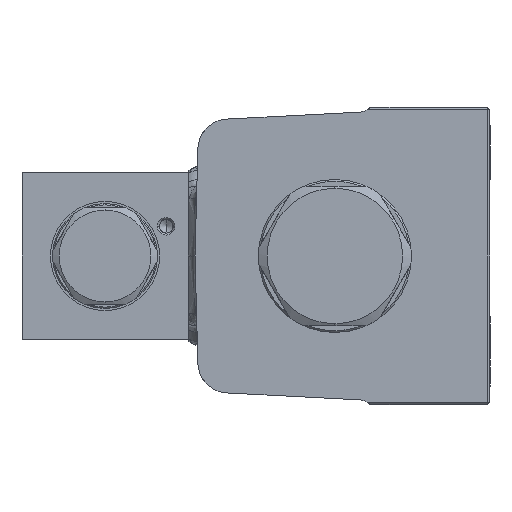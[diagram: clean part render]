
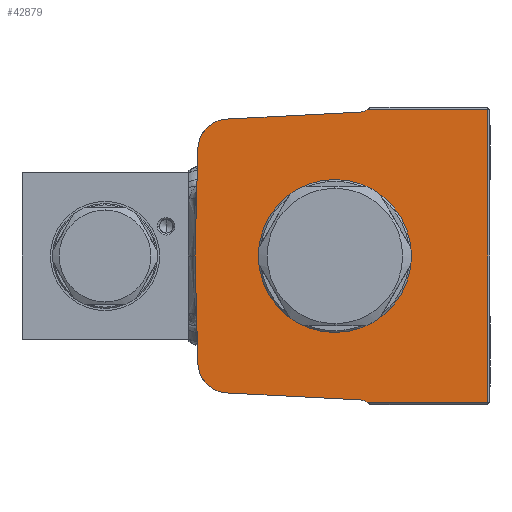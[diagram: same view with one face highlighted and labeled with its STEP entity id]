
A CAD part, left-side view. The second image highlights one B-rep face of the part: STEP entity #42879.
In plain terms, the highlighted planar face has unit normal (-1, 0, 0).
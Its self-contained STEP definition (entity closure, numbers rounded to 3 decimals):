
#260 = DIRECTION ( 'NONE',  ( 0., 0., 1. ) ) ;
#1206 = VECTOR ( 'NONE', #46653, 1000. ) ;
#1707 = EDGE_CURVE ( 'NONE', #11721, #22709, #18658, .T. ) ;
#2564 = DIRECTION ( 'NONE',  ( -1., 0., 0. ) ) ;
#2613 = DIRECTION ( 'NONE',  ( 1., 0., 0. ) ) ;
#5026 = CARTESIAN_POINT ( 'NONE',  ( -46.6, 0., 0. ) ) ;
#5421 = VERTEX_POINT ( 'NONE', #62790 ) ;
#5557 = EDGE_CURVE ( 'NONE', #11721, #5421, #65802, .T. ) ;
#5741 = CARTESIAN_POINT ( 'NONE',  ( -46.6, 16., 0. ) ) ;
#6511 = CARTESIAN_POINT ( 'NONE',  ( -46.6, -7.444, 33.5 ) ) ;
#7322 = DIRECTION ( 'NONE',  ( 1., 0., 0. ) ) ;
#7546 = ORIENTED_EDGE ( 'NONE', *, *, #20923, .F. ) ;
#8105 = CARTESIAN_POINT ( 'NONE',  ( -46.6, 24.726, 31.337 ) ) ;
#8913 = AXIS2_PLACEMENT_3D ( 'NONE', #51424, #17175, #57134 ) ;
#9104 = CARTESIAN_POINT ( 'NONE',  ( -46.6, 1.706, -32.544 ) ) ;
#9898 = VECTOR ( 'NONE', #25475, 1000. ) ;
#10683 = DIRECTION ( 'NONE',  ( 0., -1., 0. ) ) ;
#11391 = CARTESIAN_POINT ( 'NONE',  ( -46.6, -35.5, -33.5 ) ) ;
#11685 = LINE ( 'NONE', #65243, #9898 ) ;
#11718 = EDGE_CURVE ( 'NONE', #36906, #23323, #73750, .T. ) ;
#11721 = VERTEX_POINT ( 'NONE', #51425 ) ;
#13261 = VERTEX_POINT ( 'NONE', #5741 ) ;
#13986 = CIRCLE ( 'NONE', #8913, 16. ) ;
#14759 = VECTOR ( 'NONE', #45734, 1000. ) ;
#14881 = CARTESIAN_POINT ( 'NONE',  ( -46.6, -35., 33.5 ) ) ;
#15002 = ORIENTED_EDGE ( 'NONE', *, *, #15581, .T. ) ;
#15581 = EDGE_CURVE ( 'NONE', #22709, #36906, #25928, .T. ) ;
#15696 = ORIENTED_EDGE ( 'NONE', *, *, #17010, .T. ) ;
#15979 = CARTESIAN_POINT ( 'NONE',  ( -46.6, 31.978, -0.837 ) ) ;
#17010 = EDGE_CURVE ( 'NONE', #66025, #5421, #40603, .T. ) ;
#17020 = CARTESIAN_POINT ( 'NONE',  ( -46.6, -5.85, -32.94 ) ) ;
#17175 = DIRECTION ( 'NONE',  ( -1., 0., 0. ) ) ;
#18153 = LINE ( 'NONE', #23979, #1206 ) ;
#18649 = CARTESIAN_POINT ( 'NONE',  ( -46.6, -35., -33.5 ) ) ;
#18658 = LINE ( 'NONE', #9104, #62417 ) ;
#18970 = VECTOR ( 'NONE', #49831, 1000. ) ;
#19791 = DIRECTION ( 'NONE',  ( 1., 0., 0. ) ) ;
#20538 = AXIS2_PLACEMENT_3D ( 'NONE', #36875, #2613, #42613 ) ;
#20923 = EDGE_CURVE ( 'NONE', #66025, #66219, #24609, .T. ) ;
#21422 = VERTEX_POINT ( 'NONE', #6511 ) ;
#22304 = ORIENTED_EDGE ( 'NONE', *, *, #11718, .T. ) ;
#22329 = ORIENTED_EDGE ( 'NONE', *, *, #32407, .F. ) ;
#22633 = CARTESIAN_POINT ( 'NONE',  ( -46.6, -5.85, 32.94 ) ) ;
#22709 = VERTEX_POINT ( 'NONE', #17020 ) ;
#23118 = EDGE_CURVE ( 'NONE', #13261, #71311, #13986, .T. ) ;
#23289 = FACE_BOUND ( 'NONE', #69725, .T. ) ;
#23323 = VERTEX_POINT ( 'NONE', #18649 ) ;
#23635 = CARTESIAN_POINT ( 'NONE',  ( -46.6, 31.978, 0.837 ) ) ;
#23979 = CARTESIAN_POINT ( 'NONE',  ( -46.6, 1.706, 32.544 ) ) ;
#24175 = ORIENTED_EDGE ( 'NONE', *, *, #1707, .T. ) ;
#24609 = LINE ( 'NONE', #23635, #41516 ) ;
#24799 = EDGE_CURVE ( 'NONE', #69284, #66219, #54587, .T. ) ;
#25475 = DIRECTION ( 'NONE',  ( 0., 0., 1. ) ) ;
#25928 = CIRCLE ( 'NONE', #32222, 3. ) ;
#27159 = ORIENTED_EDGE ( 'NONE', *, *, #59084, .T. ) ;
#32222 = AXIS2_PLACEMENT_3D ( 'NONE', #53936, #19791, #59652 ) ;
#32227 = ORIENTED_EDGE ( 'NONE', *, *, #66736, .T. ) ;
#32407 = EDGE_CURVE ( 'NONE', #69284, #57540, #18153, .T. ) ;
#34480 = DIRECTION ( 'NONE',  ( -1., 0., 0. ) ) ;
#36821 = CARTESIAN_POINT ( 'NONE',  ( -46.6, -35.5, -34. ) ) ;
#36875 = CARTESIAN_POINT ( 'NONE',  ( -46.6, 24.36, -24.347 ) ) ;
#36906 = VERTEX_POINT ( 'NONE', #62241 ) ;
#39498 = ORIENTED_EDGE ( 'NONE', *, *, #71961, .F. ) ;
#39664 = CIRCLE ( 'NONE', #46864, 3. ) ;
#40235 = CIRCLE ( 'NONE', #73174, 16. ) ;
#40575 = DIRECTION ( 'NONE',  ( 0., -0.026, 1. ) ) ;
#40603 = LINE ( 'NONE', #15979, #70822 ) ;
#40934 = EDGE_LOOP ( 'NONE', ( #15002, #22304, #32227, #27159, #55495, #22329, #42171, #7546, #15696, #58013, #24175 ) ) ;
#41516 = VECTOR ( 'NONE', #40575, 1000. ) ;
#41595 = CARTESIAN_POINT ( 'NONE',  ( -46.6, -5.693, 35.936 ) ) ;
#42171 = ORIENTED_EDGE ( 'NONE', *, *, #24799, .T. ) ;
#42563 = DIRECTION ( 'NONE',  ( 0., 0., 1. ) ) ;
#42613 = DIRECTION ( 'NONE',  ( 0., 0., 1. ) ) ;
#42879 = ADVANCED_FACE ( 'NONE', ( #66921, #23289 ), #70627, .T. ) ;
#43043 = CARTESIAN_POINT ( 'NONE',  ( -46.6, -16., 0. ) ) ;
#44107 = CARTESIAN_POINT ( 'NONE',  ( -46.6, -35.5, 33.5 ) ) ;
#45019 = DIRECTION ( 'NONE',  ( -1., 0., 0. ) ) ;
#45734 = DIRECTION ( 'NONE',  ( 0., -1., 0. ) ) ;
#46653 = DIRECTION ( 'NONE',  ( 0., -0.999, 0.052 ) ) ;
#46864 = AXIS2_PLACEMENT_3D ( 'NONE', #41595, #7322, #47334 ) ;
#46967 = AXIS2_PLACEMENT_3D ( 'NONE', #68547, #34480, #260 ) ;
#47334 = DIRECTION ( 'NONE',  ( 0., 0., 1. ) ) ;
#49052 = AXIS2_PLACEMENT_3D ( 'NONE', #36821, #2564, #42563 ) ;
#49148 = DIRECTION ( 'NONE',  ( 0., -0.999, -0.052 ) ) ;
#49831 = DIRECTION ( 'NONE',  ( 0., 1., 0. ) ) ;
#51424 = CARTESIAN_POINT ( 'NONE',  ( -46.6, 0., 0. ) ) ;
#51425 = CARTESIAN_POINT ( 'NONE',  ( -46.6, 24.726, -31.337 ) ) ;
#51496 = ORIENTED_EDGE ( 'NONE', *, *, #23118, .F. ) ;
#53936 = CARTESIAN_POINT ( 'NONE',  ( -46.6, -5.693, -35.936 ) ) ;
#54587 = CIRCLE ( 'NONE', #46967, 7. ) ;
#55190 = CARTESIAN_POINT ( 'NONE',  ( -46.6, 32., 0. ) ) ;
#55262 = EDGE_CURVE ( 'NONE', #21422, #57540, #39664, .T. ) ;
#55495 = ORIENTED_EDGE ( 'NONE', *, *, #55262, .T. ) ;
#55927 = DIRECTION ( 'NONE',  ( 0., -0.026, -1. ) ) ;
#57134 = DIRECTION ( 'NONE',  ( 0., -1., 0. ) ) ;
#57540 = VERTEX_POINT ( 'NONE', #22633 ) ;
#58013 = ORIENTED_EDGE ( 'NONE', *, *, #5557, .F. ) ;
#58462 = VERTEX_POINT ( 'NONE', #14881 ) ;
#59084 = EDGE_CURVE ( 'NONE', #58462, #21422, #66273, .T. ) ;
#59652 = DIRECTION ( 'NONE',  ( 0., 0., 1. ) ) ;
#62241 = CARTESIAN_POINT ( 'NONE',  ( -46.6, -7.444, -33.5 ) ) ;
#62417 = VECTOR ( 'NONE', #49148, 1000. ) ;
#62790 = CARTESIAN_POINT ( 'NONE',  ( -46.6, 31.358, -24.53 ) ) ;
#62933 = CARTESIAN_POINT ( 'NONE',  ( -46.6, 31.358, 24.53 ) ) ;
#65243 = CARTESIAN_POINT ( 'NONE',  ( -46.6, -35., -34. ) ) ;
#65802 = CIRCLE ( 'NONE', #20538, 7. ) ;
#66025 = VERTEX_POINT ( 'NONE', #55190 ) ;
#66219 = VERTEX_POINT ( 'NONE', #62933 ) ;
#66273 = LINE ( 'NONE', #44107, #18970 ) ;
#66736 = EDGE_CURVE ( 'NONE', #23323, #58462, #11685, .T. ) ;
#66921 = FACE_OUTER_BOUND ( 'NONE', #40934, .T. ) ;
#68547 = CARTESIAN_POINT ( 'NONE',  ( -46.6, 24.36, 24.347 ) ) ;
#69284 = VERTEX_POINT ( 'NONE', #8105 ) ;
#69725 = EDGE_LOOP ( 'NONE', ( #39498, #51496 ) ) ;
#70627 = PLANE ( 'NONE',  #49052 ) ;
#70822 = VECTOR ( 'NONE', #55927, 1000. ) ;
#71311 = VERTEX_POINT ( 'NONE', #43043 ) ;
#71961 = EDGE_CURVE ( 'NONE', #71311, #13261, #40235, .T. ) ;
#73174 = AXIS2_PLACEMENT_3D ( 'NONE', #5026, #45019, #10683 ) ;
#73750 = LINE ( 'NONE', #11391, #14759 ) ;
